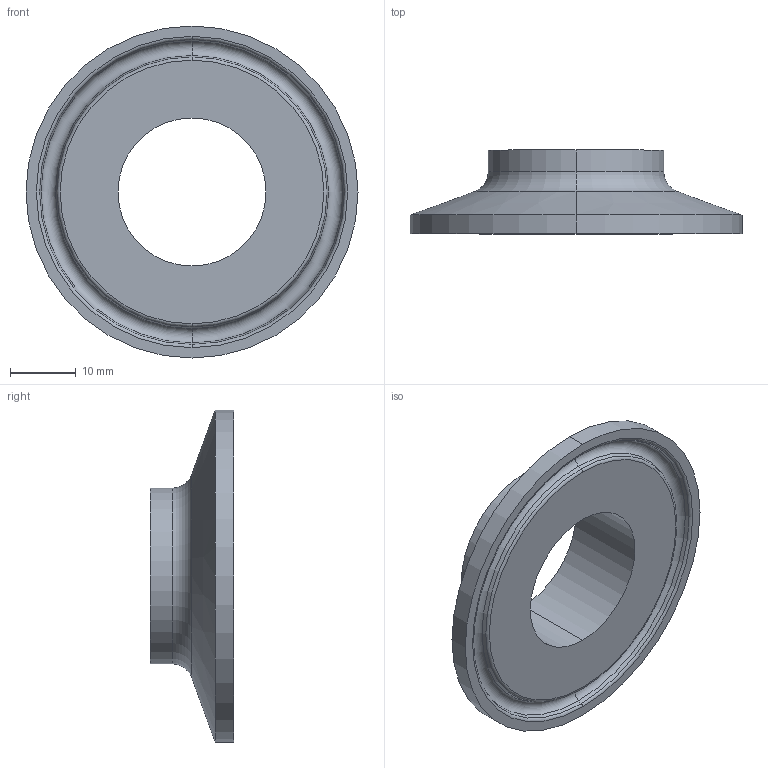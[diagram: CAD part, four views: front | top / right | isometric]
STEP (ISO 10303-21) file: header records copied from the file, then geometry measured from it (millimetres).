
FILE_DESCRIPTION (( 'STEP AP214' ), '1' );
FILE_NAME ('EG2CS-10-0.75.STEP', '2025-07-30T17:55:06', ( '' ), ( '' ), 'SwSTEP 2.0', 'SolidWorks 2022', '' );
FILE_SCHEMA (( 'AUTOMOTIVE_DESIGN' ));
Length unit declared in the file: inch
Products named in the file (1): EG2CS-10-0.75
Bounding box: 50.39 x 12.7 x 50.39 mm (x, y, z)
Volume: 8539.3 mm3; surface area: 5273.6 mm2
Topology: 1 solids, 1 shells, 23 faces, 46 edges, 26 vertices
Faces by surface type: torus 8, cylinder 6, cone 6, plane 3
Entity records: 646 total; most frequent: DIRECTION 128, CARTESIAN_POINT 96, ORIENTED_EDGE 92, AXIS2_PLACEMENT_3D 58, EDGE_CURVE 46, CIRCLE 34, EDGE_LOOP 26, VERTEX_POINT 26
